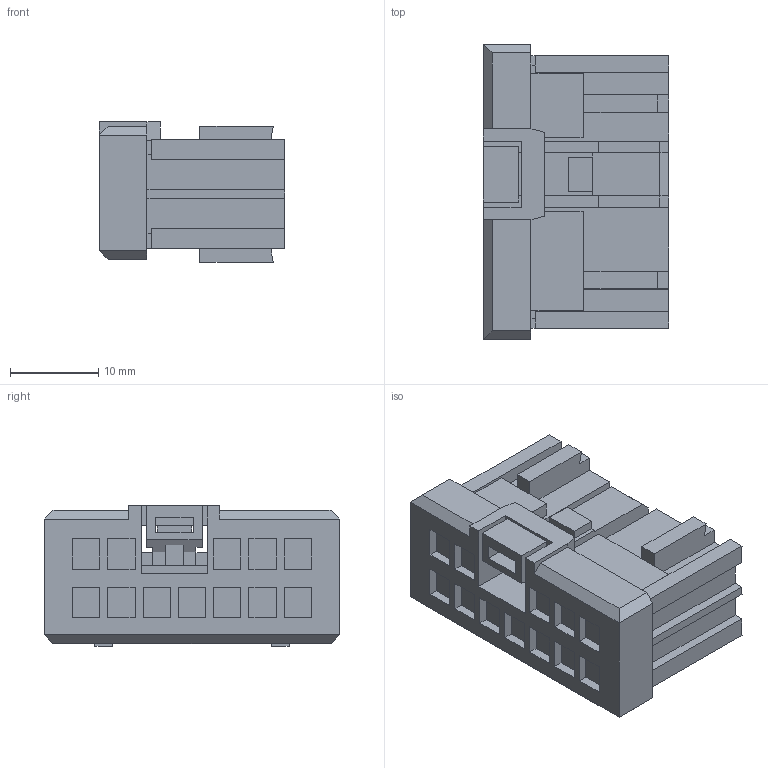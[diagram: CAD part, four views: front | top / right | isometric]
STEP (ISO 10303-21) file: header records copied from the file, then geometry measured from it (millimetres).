
FILE_DESCRIPTION(('CATIA V5 STEP Exchange'),'2;1');
FILE_NAME('N:\C-DAM_MyDesk\ENV\900093\6098-0251.stp','2013-04-03T07:04:13+00:00',('none'),('none'),'CATIA Version 5 Release 20 SP 4 (IN-10)','CATIA V5 STEP AP203','none');
FILE_SCHEMA(('CONFIG_CONTROL_DESIGN'));
Length unit declared in the file: millimetre
Products named in the file (1): 6098-0251
Bounding box: 21 x 33.5 x 15.9 mm (x, y, z)
Volume: 7156.8 mm3; surface area: 4347.5 mm2
Topology: 1 solids, 1 shells, 264 faces, 717 edges, 476 vertices
Faces by surface type: plane 264
Entity records: 7518 total; most frequent: ORIENTED_EDGE 1434, CARTESIAN_POINT 1325, DIRECTION 979, VECTOR 717, EDGE_CURVE 717, LINE 717, VERTEX_POINT 476, EDGE_LOOP 289
